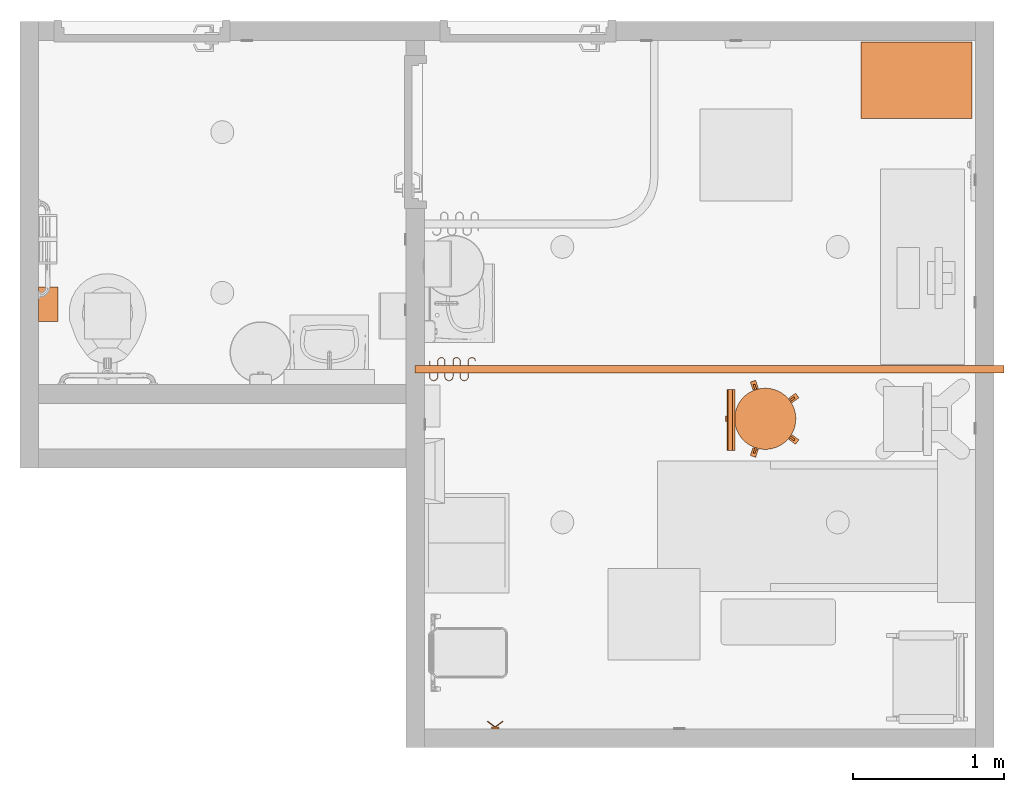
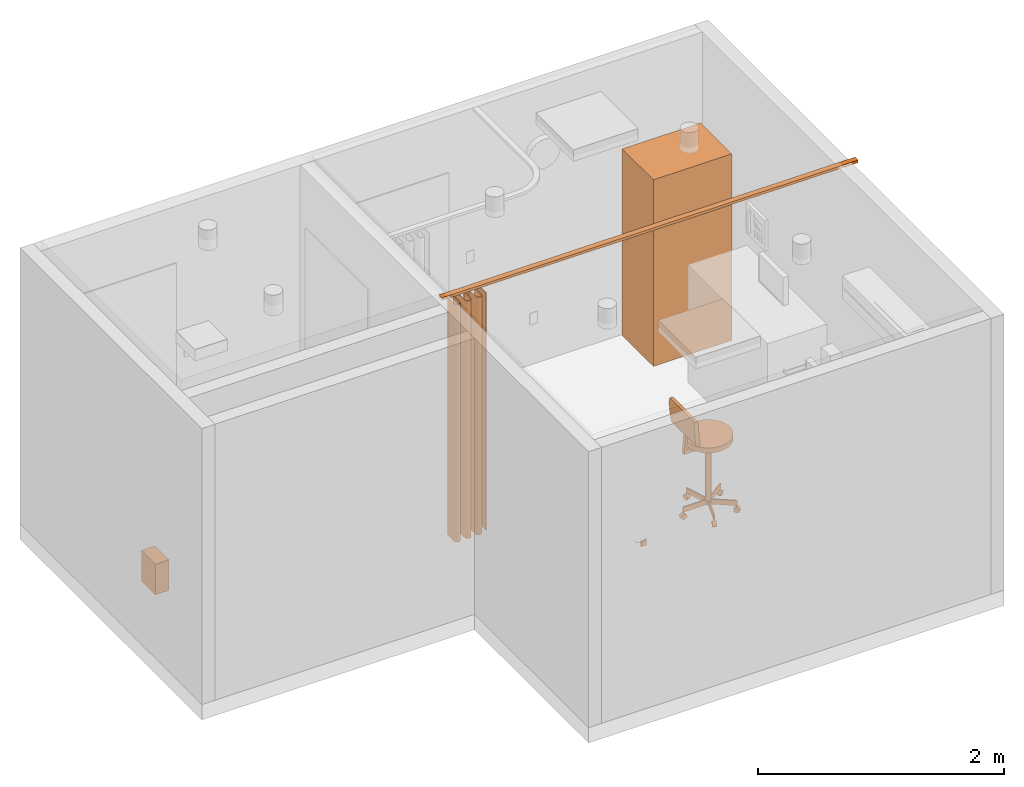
# One storey, part 7 of 14: 5 proxies.
"""IFC2X3 building model written with IfcOpenShell, lengths in feet."""

from ifc_helpers import new_model, entity, si_unit, converted_unit, derived_unit, direction, frame, frame_2d, origin, origin_2d_with_axis, place, context, subcontext, project, spatial, polyline, circle_curve, parameter, trimmed, segment, composite_curve, rectangle, circle, outline, extrude, source, transform, mapped, type_object, type_shapes, element, save


model = new_model("IFC2X3")

# Units and contexts
model_context = context("Model", 3, precision=0.0001, world=origin(), true_north=direction((6.12303176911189e-17, 1.0)))
body_context = subcontext(model_context, "Body", "Model", "MODEL_VIEW")
ifc_project = project(units=[converted_unit("LENGTHUNIT", "FOOT", entity("IfcRatioMeasure", 0.3048), si_unit("LENGTHUNIT", "METRE"), dimensions=[1, 0, 0, 0, 0, 0, 0]), converted_unit("AREAUNIT", "SQUARE FOOT", entity("IfcRatioMeasure", 0.09290304), si_unit("AREAUNIT", "SQUARE_METRE"), dimensions=[2, 0, 0, 0, 0, 0, 0]), converted_unit("VOLUMEUNIT", "CUBIC FOOT", entity("IfcRatioMeasure", 0.028316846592), si_unit("VOLUMEUNIT", "CUBIC_METRE"), dimensions=[3, 0, 0, 0, 0, 0, 0]), converted_unit("PLANEANGLEUNIT", "DEGREE", entity("IfcRatioMeasure", 0.0174532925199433), si_unit("PLANEANGLEUNIT", "RADIAN"), dimensions=[0, 0, 0, 0, 0, 0, 0]), si_unit("MASSUNIT", "GRAM", prefix="KILO"), derived_unit("MASSDENSITYUNIT", [(si_unit("MASSUNIT", "GRAM", prefix="KILO"), 1), (si_unit("LENGTHUNIT", "METRE"), -3)]), si_unit("TIMEUNIT", "SECOND"), si_unit("FREQUENCYUNIT", "HERTZ"), si_unit("THERMODYNAMICTEMPERATUREUNIT", "DEGREE_CELSIUS"), derived_unit("THERMALTRANSMITTANCEUNIT", [(si_unit("MASSUNIT", "GRAM", prefix="KILO"), 1), (si_unit("THERMODYNAMICTEMPERATUREUNIT", "KELVIN"), -1), (si_unit("TIMEUNIT", "SECOND"), -3)]), derived_unit("VOLUMETRICFLOWRATEUNIT", [(si_unit("LENGTHUNIT", "METRE"), 3), (si_unit("TIMEUNIT", "SECOND"), -1)]), si_unit("ELECTRICCURRENTUNIT", "AMPERE"), si_unit("ELECTRICVOLTAGEUNIT", "VOLT"), si_unit("POWERUNIT", "WATT"), si_unit("FORCEUNIT", "NEWTON"), si_unit("ILLUMINANCEUNIT", "LUX"), si_unit("LUMINOUSFLUXUNIT", "LUMEN"), si_unit("LUMINOUSINTENSITYUNIT", "CANDELA"), derived_unit("USERDEFINED", [(si_unit("MASSUNIT", "GRAM", prefix="KILO"), -1), (si_unit("LENGTHUNIT", "METRE"), -2), (si_unit("TIMEUNIT", "SECOND"), 3), (si_unit("LUMINOUSFLUXUNIT", "LUMEN"), 1)]), derived_unit("LINEARVELOCITYUNIT", [(si_unit("LENGTHUNIT", "METRE"), 1), (si_unit("TIMEUNIT", "SECOND"), -1)]), si_unit("PRESSUREUNIT", "PASCAL"), derived_unit("USERDEFINED", [(si_unit("LENGTHUNIT", "METRE"), -2), (si_unit("MASSUNIT", "GRAM", prefix="KILO"), 1), (si_unit("TIMEUNIT", "SECOND"), -2)])], contexts=[model_context])

# Site, building, storey, space
site_placement = place(None, origin())
site = spatial("IfcSite", under=ifc_project, at=site_placement, Name="Default", CompositionType="ELEMENT")
building_placement = place(site_placement, origin())
building = spatial("IfcBuilding", under=site, at=building_placement, Name="OUTPATIENT / PACT CLINIC (Ch. 265)", CompositionType="ELEMENT")
storey_placement = place(building_placement, origin())
storey = spatial("IfcBuildingStorey", under=building, at=storey_placement, Name="DATUM", CompositionType="ELEMENT", Elevation=0.0)
space_1_placement = place(storey_placement, origin())
space_1 = spatial("IfcSpace", under=storey, at=space_1_placement, Name="XDUS1", CompositionType="ELEMENT", InteriorOrExteriorSpace="INTERNAL")

# Proxies
building_element_proxy_type_1 = type_object("IfcBuildingElementProxyType", Name="A5145 - Hook, Garment, Double", PredefinedType="NOTDEFINED")
shared_shape_1 = source(origin(), body_context, "Body", "SweptSolid", [
    extrude(circle(Radius=0.0105952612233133, at=frame_2d((-1.64551454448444e-31, -4.16333634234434e-17), x_axis=(1.0, 0.0))), frame((-0.169086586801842, -0.168481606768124, 0.0833333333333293), z_axis=(0.799999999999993, 0.60000000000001, 0.0), x_axis=(0.60000000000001, -0.799999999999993, 0.0)), (0.0, 0.0, 1.0), 0.211358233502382),
    extrude(circle(Radius=0.0105952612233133, at=frame_2d((5.2041704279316e-19, 2.77555756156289e-17), x_axis=(1.0, 0.0))), frame((0.0, -0.0416666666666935, 0.083333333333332), z_axis=(0.799999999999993, -0.60000000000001, 0.0), x_axis=(-0.60000000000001, -0.799999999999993, 0.0)), (0.0, 0.0, 1.0), 0.211358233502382),
    extrude(rectangle(XDim=0.0416666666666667, YDim=0.166666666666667, at=origin_2d_with_axis()), frame((0.0, -0.0208333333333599, 0.0), z_axis=(0.0, 0.0, 1.0), x_axis=(0.0, 1.0, 0.0)), (0.0, 0.0, 1.0), 0.166666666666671),
])
type_shapes(building_element_proxy_type_1, [shared_shape_1])
proxy_1_placement = place(space_1_placement, frame((334.174151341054, -858.093724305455, 5.0), z_axis=(0.0, 0.0, 1.0), x_axis=(-1.0, 0.0, 0.0)))
element("IfcBuildingElementProxy", 1, at=proxy_1_placement, inside=space_1, type_object=building_element_proxy_type_1, Name="A5145 - Hook, Garment, Double:A5145 - Hook, Garment, Double", ObjectType="A5145 - Hook, Garment, Double", context=body_context, shape_type="MappedRepresentation", body=[
    mapped(shared_shape_1, transform((0.0, 0.0, 0.0), scale=1.0)),
])
building_element_proxy_type_2 = type_object("IfcBuildingElementProxyType", Name="E0930 - Locker, Supply, 6 Drawers, Mobile, 29W x 20D (2)", PredefinedType="NOTDEFINED")
shared_shape_2 = source(origin(), body_context, "Body", "SweptSolid", [
    extrude(rectangle(XDim=1.66666666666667, YDim=2.08333333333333, at=origin_2d_with_axis()), frame((0.0, 0.0, 6.0), z_axis=(0.0, 0.0, 1.0), x_axis=(0.0, 1.0, 0.0)), (0.0, 0.0, 1.0), 0.0833333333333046),
    extrude(circle(Radius=0.0694444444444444, at=frame_2d((1.97215226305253e-31, -1.11022302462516e-16), x_axis=(1.0, 0.0))), frame((-0.902777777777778, -0.677083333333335, 0.176654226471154), z_axis=(0.0, 0.0, 1.0), x_axis=(0.0, 1.0, 0.0)), (0.0, 0.0, 1.0), 0.240012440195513),
    extrude(circle(Radius=0.138888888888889, at=frame_2d((0.0, -2.22044604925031e-16), x_axis=(1.0, 0.0))), frame((-0.833333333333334, -0.758680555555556, 0.208333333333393), z_axis=(0.0, 1.0, 0.0), x_axis=(-1.0, 0.0, 0.0)), (0.0, 0.0, 1.0), 0.15625),
    extrude(circle(Radius=0.208333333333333, at=frame_2d((0.0, -3.33066907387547e-16), x_axis=(1.0, 0.0))), frame((-0.833333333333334, -0.836805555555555, 0.208333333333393), z_axis=(0.0, 1.0, 0.0), x_axis=(-1.0, 0.0, 0.0)), (0.0, 0.0, 1.0), 0.0781249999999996),
    extrude(circle(Radius=0.208333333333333, at=frame_2d((0.0, -3.33066907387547e-16), x_axis=(1.0, 0.0))), frame((-0.833333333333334, -0.602430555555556, 0.208333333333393), z_axis=(0.0, 1.0, 0.0), x_axis=(-1.0, 0.0, 0.0)), (0.0, 0.0, 1.0), 0.0781250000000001),
    extrude(circle(Radius=0.0694444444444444, at=frame_2d((1.97215226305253e-31, 1.11022302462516e-16), x_axis=(1.0, 0.0))), frame((0.902777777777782, -0.677083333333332, 0.176654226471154), z_axis=(0.0, 0.0, 1.0), x_axis=(0.0, 1.0, 0.0)), (0.0, 0.0, 1.0), 0.240012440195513),
    extrude(circle(Radius=0.138888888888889, at=frame_2d((0.0, -2.22044604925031e-16), x_axis=(1.0, 0.0))), frame((0.833333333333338, -0.760416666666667, 0.208333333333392), z_axis=(0.0, 1.0, 0.0), x_axis=(1.0, 0.0, 0.0)), (0.0, 0.0, 1.0), 0.15625),
    extrude(circle(Radius=0.208333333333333, at=frame_2d((0.0, -3.33066907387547e-16), x_axis=(1.0, 0.0))), frame((0.833333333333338, -0.838541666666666, 0.208333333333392), z_axis=(0.0, 1.0, 0.0), x_axis=(1.0, 0.0, 0.0)), (0.0, 0.0, 1.0), 0.0781249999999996),
    extrude(circle(Radius=0.208333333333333, at=frame_2d((1.11022302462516e-16, -3.33066907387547e-16), x_axis=(1.0, 0.0))), frame((0.833333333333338, -0.604166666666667, 0.208333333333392), z_axis=(0.0, 1.0, 0.0), x_axis=(1.0, 0.0, 0.0)), (0.0, 0.0, 1.0), 0.0781250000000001),
    extrude(circle(Radius=0.0694444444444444, at=frame_2d((1.97215226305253e-31, 1.11022302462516e-16), x_axis=(1.0, 0.0))), frame((-0.902777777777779, 0.677083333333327, 0.176654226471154), z_axis=(0.0, 0.0, 1.0), x_axis=(0.0, -1.0, 0.0)), (0.0, 0.0, 1.0), 0.240012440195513),
    extrude(circle(Radius=0.138888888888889, at=frame_2d((0.0, -6.38378239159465e-16), x_axis=(1.0, 0.0))), frame((-0.833333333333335, 0.598958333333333, 0.208333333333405), z_axis=(0.0, 1.0, 0.0), x_axis=(-1.0, 0.0, 0.0)), (0.0, 0.0, 1.0), 0.15625),
    extrude(circle(Radius=0.208333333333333, at=frame_2d((0.0, -9.43689570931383e-16), x_axis=(1.0, 0.0))), frame((-0.833333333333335, 0.755208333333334, 0.208333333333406), z_axis=(0.0, 1.0, 0.0), x_axis=(-1.0, 0.0, 0.0)), (0.0, 0.0, 1.0), 0.0781249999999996),
    extrude(circle(Radius=0.208333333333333, at=frame_2d((1.11022302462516e-16, -9.43689570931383e-16), x_axis=(1.0, 0.0))), frame((-0.833333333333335, 0.520833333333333, 0.208333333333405), z_axis=(0.0, 1.0, 0.0), x_axis=(-1.0, 0.0, 0.0)), (0.0, 0.0, 1.0), 0.0781250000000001),
    extrude(circle(Radius=0.0694444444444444, at=frame_2d((0.00686468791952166, 0.000866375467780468), x_axis=(1.0, 0.0))), frame((0.901911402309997, 0.683948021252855, 0.176654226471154), z_axis=(0.0, 0.0, 1.0), x_axis=(0.0, -1.0, 0.0)), (0.0, 0.0, 1.0), 0.240012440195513),
    extrude(circle(Radius=0.208333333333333, at=frame_2d((0.0, -9.43689570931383e-16), x_axis=(1.0, 0.0))), frame((0.833333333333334, 0.755208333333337, 0.208333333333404), z_axis=(0.0, 1.0, 0.0), x_axis=(1.0, 0.0, 0.0)), (0.0, 0.0, 1.0), 0.0781249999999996),
    extrude(circle(Radius=0.208333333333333, at=frame_2d((1.97215226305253e-31, -9.43689570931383e-16), x_axis=(1.0, 0.0))), frame((0.833333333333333, 0.520833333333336, 0.208333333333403), z_axis=(0.0, 1.0, 0.0), x_axis=(1.0, 0.0, 0.0)), (0.0, 0.0, 1.0), 0.0781250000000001),
    extrude(outline(polyline([(-4.06249999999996, -1.04166666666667), (1.52083333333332, -1.04166666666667), (1.52083333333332, -0.958333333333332), (1.02083333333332, -0.958333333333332), (1.02083333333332, 0.958333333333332), (1.52083333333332, 0.958333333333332), (1.52083333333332, 1.04166666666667), (-4.06249999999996, 1.04166666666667), (-4.06249999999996, -1.04166666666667)]), holes=[polyline([(0.937499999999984, -0.958333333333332), (0.437499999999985, -0.958333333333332), (0.437499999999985, 0.958333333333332), (0.937499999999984, 0.958333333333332), (0.937499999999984, -0.958333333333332)]), polyline([(0.354166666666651, -0.958333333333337), (-0.145833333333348, -0.958333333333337), (-0.145833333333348, 0.958333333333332), (0.354166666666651, 0.958333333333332), (0.354166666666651, -0.958333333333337)])]), frame((0.0, -0.833333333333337, 4.47916666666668), z_axis=(0.0, 1.0, 0.0), x_axis=(0.0, 0.0, 1.0)), (0.0, 0.0, 1.0), 1.66666666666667),
    extrude(outline(polyline([(-0.104166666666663, -0.833333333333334), (0.062499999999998, -0.833333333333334), (0.062499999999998, -0.749999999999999), (-0.0208333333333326, -0.749999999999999), (-0.0208333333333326, 0.75), (0.0624999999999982, 0.75), (0.0624999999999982, 0.833333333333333), (-0.104166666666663, 0.833333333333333), (-0.104166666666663, -0.833333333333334)])), frame((1.10416666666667, 0.0, 3.0), z_axis=(0.0, 0.0, 1.0), x_axis=(-1.0, 0.0, 0.0)), (0.0, 0.0, 1.0), 0.083333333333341),
    extrude(outline(polyline([(-0.833333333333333, -0.104166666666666), (0.833333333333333, -0.104166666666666), (0.833333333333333, 0.0625000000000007), (0.75, 0.0625000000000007), (0.75, -0.0208333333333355), (-0.749999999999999, -0.0208333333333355), (-0.749999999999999, 0.0625000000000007), (-0.833333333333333, 0.0625000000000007), (-0.833333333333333, -0.104166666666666)])), frame((-1.10416666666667, 0.0, 3.0), z_axis=(0.0, 0.0, 1.0), x_axis=(0.0, -1.0, 0.0)), (0.0, 0.0, 1.0), 0.0833333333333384),
    extrude(rectangle(XDim=1.66666666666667, YDim=2.41666666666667, at=frame_2d((8.88178419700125e-16, 0.241666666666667), x_axis=(1.0, 0.0))), frame((-0.241666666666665, 0.0, 0.0), z_axis=(0.0, 0.0, 1.0), x_axis=(0.0, -1.0, 0.0)), (0.0, 0.0, 1.0), 6.0833333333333),
])
type_shapes(building_element_proxy_type_2, [shared_shape_2])
proxy_2_placement = place(space_1_placement, frame((343.351234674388, -843.963515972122, 0.0), z_axis=(0.0, 0.0, 1.0), x_axis=(-1.0, 0.0, 0.0)))
element("IfcBuildingElementProxy", 2, at=proxy_2_placement, inside=space_1, type_object=building_element_proxy_type_2, Name="E0930 - Locker, Supply, 6 Drawers, Mobile, 29W x 20D (2):E0930 - Locker, Supply, 6 Drawers, Mobile, 29W x 20D (2)", ObjectType="E0930 - Locker, Supply, 6 Drawers, Mobile, 29W x 20D (2)", context=body_context, shape_type="MappedRepresentation", body=[
    mapped(shared_shape_2, transform((0.0, 0.0, 0.0), scale=1.0)),
])
building_element_proxy_type_3 = type_object("IfcBuildingElementProxyType", Name="M8940 - Stool, Anesthesia, With Back", PredefinedType="NOTDEFINED")
shared_shape_3 = source(origin(), body_context, "Body", "SweptSolid", [
    extrude(outline(polyline([(0.143987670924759, 0.000865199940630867), (0.333394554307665, 0.000865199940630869), (0.333394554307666, 0.0559892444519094), (0.142005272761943, 0.0559892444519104), (-0.179168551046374, 0.00196917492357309), (-0.390620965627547, -0.0185684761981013), (-0.382992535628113, -0.0971095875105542), (0.143987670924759, 0.000865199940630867)])), frame((-0.0625000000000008, 0.624659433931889, 2.5155864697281), z_axis=(1.0, 0.0, 0.0), x_axis=(0.0, 0.0966716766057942, 0.995316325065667)), (0.0, 0.0, 1.0), 0.132780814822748),
    extrude(outline(polyline([(-0.104007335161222, -0.374369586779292), (-0.0277118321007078, -0.374369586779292), (-0.0197350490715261, -0.338348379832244), (0.00592434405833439, -0.182113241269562), (0.0162560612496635, -0.135457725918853), (0.045782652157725, -0.00212284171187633), (0.0856087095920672, 0.177721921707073), (0.112798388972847, 0.276572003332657), (0.120257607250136, 0.307674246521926), (0.129202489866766, 0.415216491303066), (0.0455811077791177, 0.433734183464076), (0.0167028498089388, 0.395704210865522), (-0.0364083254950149, 0.222671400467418), (-0.125070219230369, -0.177704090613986), (-0.136828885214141, -0.275386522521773), (-0.128352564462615, -0.369422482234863), (-0.104007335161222, -0.374369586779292)])), frame((-0.687500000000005, 0.644271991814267, 3.18727180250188), z_axis=(1.0, 0.0, 0.0), x_axis=(0.0, -0.991475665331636, -0.130291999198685)), (0.0, 0.0, 1.0), 1.33333333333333),
    extrude(outline(composite_curve([segment(polyline([(-0.0612743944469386, -0.320690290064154), (0.0612743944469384, -0.320690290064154)]), True, "CONTINUOUS"), segment(polyline([(0.0612743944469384, -0.320690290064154), (0.0612743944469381, 0.320690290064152)]), True, "CONTINUOUS"), segment(trimmed(circle_curve(frame_2d((0.0, 0.373318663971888), x_axis=(-1.0, 0.0)), 0.0807731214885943), [parameter(40.6591720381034)], [parameter(139.340827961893)], True, "PARAMETER"), False, "CONTINUOUS"), segment(polyline([(-0.0612743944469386, 0.320690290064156), (-0.0612743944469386, -0.320690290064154)]), True, "CONTINUOUS")], self_intersect=False)), frame((0.00589508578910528, 0.284688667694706, 2.125), z_axis=(0.0, 0.0, 1.0), x_axis=(-1.0, 0.0, 0.0)), (0.0, 0.0, 1.0), 0.125),
    extrude(circle(Radius=0.666666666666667, at=frame_2d((6.93889390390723e-18, -1.08246744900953e-15), x_axis=(1.0, 0.0))), frame((0.0071206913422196, -0.0913525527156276, 2.33333333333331)), (0.0, 0.0, 1.0), 0.166666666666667),
    extrude(circle(Radius=0.084518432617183, at=frame_2d((-4.28847227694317e-18, -1.11022302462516e-16), x_axis=(1.0, 0.0))), frame((0.756321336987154, 0.0973138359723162, 0.0845184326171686), z_axis=(-0.30901699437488, 0.951056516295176, 0.0), x_axis=(0.951056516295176, 0.30901699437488, 0.0)), (0.0, 0.0, 1.0), 0.104166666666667),
    extrude(outline(composite_curve([segment(trimmed(circle_curve(frame_2d((0.0, 0.0), x_axis=(-1.0, 0.0)), 0.0925649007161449), [parameter(360.0)], [parameter(180.0)], True, "PARAMETER"), True, "CONTINUOUS"), segment(polyline([(0.092564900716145, 0.0), (-0.0925649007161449, 0.0)]), True, "CONTINUOUS")], self_intersect=False)), frame((0.759540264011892, 0.0874069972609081, 0.0845184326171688), z_axis=(0.30901699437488, -0.951056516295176, 0.0), x_axis=(-0.951056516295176, -0.30901699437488, 0.0)), (0.0, 0.0, -1.0), 0.125),
    extrude(circle(Radius=0.0115130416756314, at=origin_2d_with_axis()), frame((0.740227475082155, 0.146845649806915, 0.177083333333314), z_axis=(0.0, 0.0, 1.0), x_axis=(0.30901699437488, -0.951056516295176, 0.0)), (0.0, 0.0, 1.0), 0.0442708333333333),
    extrude(rectangle(XDim=0.0416641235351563, YDim=0.705912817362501, at=frame_2d((-1.38777878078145e-17, 0.0), x_axis=(1.0, 0.0))), frame((0.419691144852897, 0.042697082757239, 0.221354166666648), z_axis=(0.0, 0.0, 1.0), x_axis=(-0.309016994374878, 0.951056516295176, 0.0)), (0.0, 0.0, 1.0), 0.166666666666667),
    extrude(circle(Radius=0.084518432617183, at=frame_2d((0.0, -3.7470027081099e-16), x_axis=(1.0, 0.0))), frame((0.418068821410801, -0.745583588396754, 0.0845184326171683), z_axis=(0.809016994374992, 0.587785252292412, 0.0), x_axis=(0.587785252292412, -0.809016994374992, 0.0)), (0.0, 0.0, 1.0), 0.104166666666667),
    extrude(outline(composite_curve([segment(trimmed(circle_curve(frame_2d((0.0, 0.0), x_axis=(-1.0, 0.0)), 0.0925649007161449), [parameter(360.0)], [parameter(180.0)], True, "PARAMETER"), True, "CONTINUOUS"), segment(polyline([(0.092564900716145, 0.0), (-0.0925649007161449, 0.0)]), True, "CONTINUOUS")], self_intersect=False)), frame((0.409641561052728, -0.751706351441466, 0.0845184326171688), z_axis=(-0.809016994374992, -0.587785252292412, 0.0), x_axis=(-0.587785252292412, 0.809016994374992, 0.0)), (0.0, 0.0, -1.0), 0.125),
    extrude(circle(Radius=0.0115130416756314, at=origin_2d_with_axis()), frame((0.460203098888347, -0.714971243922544, 0.177083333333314), z_axis=(0.0, 0.0, 1.0), x_axis=(-0.809016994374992, -0.587785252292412, 0.0)), (0.0, 0.0, 1.0), 0.0442708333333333),
    extrude(rectangle(XDim=0.0416641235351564, YDim=0.705912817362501, at=frame_2d((2.77555756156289e-17, -2.77555756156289e-17), x_axis=(1.0, 0.0))), frame((0.26210075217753, -0.44230675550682, 0.221354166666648), z_axis=(0.0, 0.0, 1.0), x_axis=(0.809016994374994, 0.58778525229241, 0.0)), (0.0, 0.0, 1.0), 0.166666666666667),
    extrude(circle(Radius=0.084518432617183, at=frame_2d((3.26286360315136e-17, -9.71445146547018e-17), x_axis=(1.0, 0.0))), frame((-0.488100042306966, -0.684355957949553, 0.0845184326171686), z_axis=(0.809016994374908, -0.587785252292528, 0.0), x_axis=(-0.587785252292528, -0.809016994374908, 0.0)), (0.0, 0.0, 1.0), 0.104166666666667),
    extrude(outline(composite_curve([segment(trimmed(circle_curve(origin_2d_with_axis(), 0.0925649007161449), [parameter(360.0)], [parameter(180.0)], True, "PARAMETER"), True, "CONTINUOUS"), segment(polyline([(-0.0925649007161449, 0.0), (0.0925649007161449, 0.0)]), True, "CONTINUOUS")], self_intersect=False)), frame((-0.395400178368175, -0.751706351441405, 0.08451843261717), z_axis=(-0.809016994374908, 0.587785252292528, 0.0), x_axis=(-0.587785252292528, -0.809016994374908, 0.0)), (0.0, 0.0, 1.0), 0.125),
    extrude(circle(Radius=0.0115130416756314, at=origin_2d_with_axis()), frame((-0.445965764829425, -0.71496830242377, 0.177083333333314), z_axis=(0.0, 0.0, 1.0), x_axis=(-0.809016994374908, 0.587785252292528, 0.0)), (0.0, 0.0, 1.0), 0.0442708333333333),
    extrude(rectangle(XDim=0.0416641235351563, YDim=0.705912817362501, at=origin_2d_with_axis()), frame((-0.247863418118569, -0.442303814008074, 0.221354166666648), z_axis=(0.0, 0.0, 1.0), x_axis=(0.809016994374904, -0.587785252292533, 0.0)), (0.0, 0.0, 1.0), 0.166666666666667),
    extrude(circle(Radius=0.084518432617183, at=frame_2d((0.0, -1.38777878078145e-16), x_axis=(1.0, 0.0))), frame((-0.742079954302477, 0.0973138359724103, 0.0845184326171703), z_axis=(0.309016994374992, 0.951056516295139, 0.0), x_axis=(-0.951056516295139, 0.309016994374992, 0.0)), (0.0, 0.0, 1.0), 0.104166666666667),
    extrude(outline(composite_curve([segment(trimmed(circle_curve(origin_2d_with_axis(), 0.0925649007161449), [parameter(360.0)], [parameter(180.0)], True, "PARAMETER"), True, "CONTINUOUS"), segment(polyline([(-0.0925649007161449, 0.0), (0.0925649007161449, 0.0)]), True, "CONTINUOUS")], self_intersect=False)), frame((-0.745298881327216, 0.0874069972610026, 0.0845184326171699), z_axis=(0.309016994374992, 0.951056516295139, 0.0), x_axis=(-0.951056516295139, 0.309016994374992, 0.0)), (0.0, 0.0, 1.0), 0.125),
    extrude(circle(Radius=0.0115130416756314, at=frame_2d((-3.43077782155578e-17, 1.05588484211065e-16), x_axis=(1.0, 0.0))), frame((-0.725984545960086, 0.146850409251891, 0.177083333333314), z_axis=(0.0, 0.0, 1.0), x_axis=(0.309016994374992, 0.951056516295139, 0.0)), (0.0, 0.0, 1.0), 0.0442708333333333),
    extrude(rectangle(XDim=0.0416641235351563, YDim=0.705912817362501, at=frame_2d((-6.93889390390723e-18, 5.55111512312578e-17), x_axis=(1.0, 0.0))), frame((-0.40544821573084, 0.042701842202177, 0.221354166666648), z_axis=(0.0, 0.0, 1.0), x_axis=(-0.309016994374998, -0.951056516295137, 0.0)), (0.0, 0.0, 1.0), 0.166666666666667),
    extrude(circle(Radius=0.084518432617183, at=frame_2d((0.0, 1.38777878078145e-16), x_axis=(1.0, 0.0))), frame((-0.0449626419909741, 0.679480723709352, 0.08451843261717), z_axis=(1.0, 0.0, 0.0), x_axis=(0.0, 1.0, 0.0)), (0.0, 0.0, 1.0), 0.104166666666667),
    extrude(outline(composite_curve([segment(trimmed(circle_curve(origin_2d_with_axis(), 0.0925649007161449), [parameter(360.0)], [parameter(180.0)], True, "PARAMETER"), True, "CONTINUOUS"), segment(polyline([(-0.0925649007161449, 0.0), (0.0925649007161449, 0.0)]), True, "CONTINUOUS")], self_intersect=False)), frame((-0.0553793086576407, 0.679480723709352, 0.0845184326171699), z_axis=(1.0, 0.0, 0.0), x_axis=(0.0, 1.0, 0.0)), (0.0, 0.0, 1.0), 0.125),
    extrude(circle(Radius=0.0115130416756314, at=frame_2d((-8.6736173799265e-19, 1.11022302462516e-16), x_axis=(1.0, 0.0))), frame((0.00712319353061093, 0.67948072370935, 0.177083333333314)), (0.0, 0.0, 1.0), 0.0442708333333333),
    extrude(rectangle(XDim=0.0416641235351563, YDim=0.705912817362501, at=frame_2d((0.0, -5.55111512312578e-17), x_axis=(1.0, 0.0))), frame((0.00712319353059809, 0.34244888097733, 0.221354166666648), z_axis=(0.0, 0.0, 1.0), x_axis=(-1.0, 0.0, 0.0)), (0.0, 0.0, 1.0), 0.166666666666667),
    extrude(circle(Radius=0.0834863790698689, at=frame_2d((-6.93889390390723e-18, -1.38777878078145e-16), x_axis=(1.0, 0.0))), frame((0.00712069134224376, -0.0913525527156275, 0.221354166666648)), (0.0, 0.0, 1.0), 2.11197916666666),
])
type_shapes(building_element_proxy_type_3, [shared_shape_3])
proxy_3_placement = place(space_1_placement, frame((339.965818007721, -851.343724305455, 0.0), z_axis=(0.0, 0.0, 1.0), x_axis=(0.0, 1.0, 0.0)))
element("IfcBuildingElementProxy", 3, at=proxy_3_placement, inside=space_1, type_object=building_element_proxy_type_3, Name="M8940 - Stool, Anesthesia, With Back:M8940 - Stool, Anesthesia, With Back", ObjectType="M8940 - Stool, Anesthesia, With Back", context=body_context, shape_type="MappedRepresentation", body=[
    mapped(shared_shape_3, transform((0.0, 0.0, 0.0), scale=1.0)),
])

# Space
space_2_placement = place(storey_placement, origin())
space_2 = spatial("IfcSpace", under=storey, at=space_2_placement, Name="TNPG1", CompositionType="ELEMENT", InteriorOrExteriorSpace="INTERNAL")

# Proxies
building_element_proxy_type_4 = type_object("IfcBuildingElementProxyType", Name="A5090 - Dispenser, Sanitary Napkin, SS, Surface Mounted", PredefinedType="NOTDEFINED")
shared_shape_4 = source(origin(), body_context, "Body", "SweptSolid", [
    extrude(rectangle(XDim=0.75, YDim=0.0833333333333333, at=frame_2d((0.0, -6.93889390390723e-18), x_axis=(1.0, 0.0))), frame((0.0, 0.0416666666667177, 0.87500000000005), z_axis=(0.0, 0.0, 1.0), x_axis=(-1.0, 0.0, 0.0)), (0.0, 0.0, 1.0), 0.125000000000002),
    extrude(outline(polyline([(-0.0828981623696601, -0.378205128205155), (0.0421018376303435, -0.378205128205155), (0.042101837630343, -0.0865384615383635), (0.0166807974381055, -0.0793339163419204), (-0.0043447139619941, -0.0589660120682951), (-0.017339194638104, -0.0289565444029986), (-0.0200557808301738, 0.0055055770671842), (-0.0120247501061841, 0.038461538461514), (0.00536525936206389, 0.0642129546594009), (0.0291073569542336, 0.0783071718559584), (0.0421018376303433, 0.0801282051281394), (0.0421018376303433, 0.371794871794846), (-0.0828981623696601, 0.371794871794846), (-0.0828981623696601, -0.378205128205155)])), frame((-0.00320512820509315, 0.0833333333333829, 0.917101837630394), z_axis=(0.0, 1.0, 0.0), x_axis=(0.0, 0.0, -1.0)), (0.0, 0.0, 1.0), 0.333333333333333),
    extrude(rectangle(XDim=0.749999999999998, YDim=0.416666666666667, at=origin_2d_with_axis()), frame((0.0, 0.208333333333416, 0.0), z_axis=(0.0, 0.0, 1.0), x_axis=(-1.0, 0.0, 0.0)), (0.0, 0.0, 1.0), 0.875000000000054),
])
type_shapes(building_element_proxy_type_4, [shared_shape_4])
proxy_4_placement = place(space_2_placement, frame((324.231443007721, -848.843724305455, 1.5), z_axis=(0.0, 0.0, 1.0), x_axis=(0.0, -1.0, 0.0)))
element("IfcBuildingElementProxy", 4, at=proxy_4_placement, inside=space_2, type_object=building_element_proxy_type_4, Name="A5090 - Dispenser, Sanitary Napkin, SS, Surface Mounted:A5090 - Dispenser, Sanitary Napkin, SS, Surface Mounted", ObjectType="A5090 - Dispenser, Sanitary Napkin, SS, Surface Mounted", context=body_context, shape_type="MappedRepresentation", body=[
    mapped(shared_shape_4, transform((0.0, 0.0, 0.0), scale=1.0)),
])
building_element_proxy_type_5 = type_object("IfcBuildingElementProxyType", Name="A5180 - Track, Cubicle, Surface Mounted, With Curtain, Straight_12-9", PredefinedType="NOTDEFINED")
shared_shape_5 = source(origin(), body_context, "Body", "SweptSolid", [
    extrude(outline(composite_curve([segment(trimmed(circle_curve(frame_2d((-0.417410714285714, -0.166666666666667), x_axis=(1.0, 0.0)), 0.0833333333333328), [parameter(180.0)], [parameter(4.57999874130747e-13)], True, "PARAMETER"), True, "CONTINUOUS"), segment(polyline([(-0.334077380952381, -0.166666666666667), (-0.334077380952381, 0.166666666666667)]), True, "CONTINUOUS"), segment(trimmed(circle_curve(frame_2d((-0.250744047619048, 0.166666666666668), x_axis=(1.0, 0.0)), 0.0833333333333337), [parameter(1.01777749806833e-13)], [parameter(180.0)], True, "PARAMETER"), False, "CONTINUOUS"), segment(polyline([(-0.167410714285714, 0.166666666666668), (-0.167410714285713, -0.166666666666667)]), True, "CONTINUOUS"), segment(trimmed(circle_curve(frame_2d((-0.0840773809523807, -0.166666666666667), x_axis=(1.0, 0.0)), 0.0833333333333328), [parameter(180.0)], [parameter(4.57999874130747e-13)], True, "PARAMETER"), True, "CONTINUOUS"), segment(polyline([(-0.000744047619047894, -0.166666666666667), (-0.000744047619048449, 0.166666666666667)]), True, "CONTINUOUS"), segment(trimmed(circle_curve(frame_2d((0.0825892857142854, 0.166666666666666), x_axis=(1.0, 0.0)), 0.0833333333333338), [parameter(360.0)], [parameter(180.0)], True, "PARAMETER"), False, "CONTINUOUS"), segment(polyline([(0.165922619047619, 0.166666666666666), (0.16592261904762, -0.166666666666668)]), True, "CONTINUOUS"), segment(trimmed(circle_curve(frame_2d((0.249255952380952, -0.166666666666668), x_axis=(1.0, 0.0)), 0.0833333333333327), [parameter(180.0)], [parameter(4.57999874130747e-13)], True, "PARAMETER"), True, "CONTINUOUS"), segment(polyline([(0.332589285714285, -0.166666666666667), (0.332589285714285, 0.166666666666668)]), True, "CONTINUOUS"), segment(trimmed(circle_curve(frame_2d((0.415922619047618, 0.166666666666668), x_axis=(1.0, 0.0)), 0.0833333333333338), [parameter(5.08888749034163e-14)], [parameter(180.0)], True, "PARAMETER"), False, "CONTINUOUS"), segment(polyline([(0.499255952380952, 0.166666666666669), (0.499255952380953, -0.166666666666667)]), True, "CONTINUOUS"), segment(polyline([(0.499255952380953, -0.166666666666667), (0.50967261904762, -0.166666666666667)]), True, "CONTINUOUS"), segment(polyline([(0.50967261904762, -0.166666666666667), (0.509672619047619, 0.166666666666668)]), True, "CONTINUOUS"), segment(trimmed(circle_curve(frame_2d((0.415922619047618, 0.166666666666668), x_axis=(1.0, 0.0)), 0.0937500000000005), [parameter(4.07110999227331e-13)], [parameter(180.0)], True, "PARAMETER"), True, "CONTINUOUS"), segment(polyline([(0.322172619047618, 0.166666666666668), (0.322172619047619, -0.166666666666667)]), True, "CONTINUOUS"), segment(trimmed(circle_curve(frame_2d((0.249255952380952, -0.166666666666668), x_axis=(1.0, 0.0)), 0.072916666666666), [parameter(180.0)], [parameter(360.0)], True, "PARAMETER"), False, "CONTINUOUS"), segment(polyline([(0.176339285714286, -0.166666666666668), (0.176339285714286, 0.166666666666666)]), True, "CONTINUOUS"), segment(trimmed(circle_curve(frame_2d((0.0825892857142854, 0.166666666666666), x_axis=(1.0, 0.0)), 0.0937500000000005), [parameter(4.57999874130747e-13)], [parameter(180.0)], True, "PARAMETER"), True, "CONTINUOUS"), segment(polyline([(-0.0111607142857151, 0.166666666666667), (-0.0111607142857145, -0.166666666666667)]), True, "CONTINUOUS"), segment(trimmed(circle_curve(frame_2d((-0.0840773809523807, -0.166666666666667), x_axis=(1.0, 0.0)), 0.0729166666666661), [parameter(180.0)], [parameter(360.0)], True, "PARAMETER"), False, "CONTINUOUS"), segment(polyline([(-0.156994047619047, -0.166666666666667), (-0.156994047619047, 0.166666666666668)]), True, "CONTINUOUS"), segment(trimmed(circle_curve(frame_2d((-0.250744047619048, 0.166666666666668), x_axis=(1.0, 0.0)), 0.0937500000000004), [parameter(5.08888749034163e-13)], [parameter(180.0)], True, "PARAMETER"), True, "CONTINUOUS"), segment(polyline([(-0.344494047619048, 0.166666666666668), (-0.344494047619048, -0.166666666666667)]), True, "CONTINUOUS"), segment(trimmed(circle_curve(frame_2d((-0.417410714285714, -0.166666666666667), x_axis=(1.0, 0.0)), 0.0729166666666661), [parameter(180.0)], [parameter(360.0)], True, "PARAMETER"), False, "CONTINUOUS"), segment(polyline([(-0.49032738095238, -0.166666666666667), (-0.49032738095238, 0.166666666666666)]), True, "CONTINUOUS"), segment(polyline([(-0.49032738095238, 0.166666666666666), (-0.500744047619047, 0.166666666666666)]), True, "CONTINUOUS"), segment(polyline([(-0.500744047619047, 0.166666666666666), (-0.500744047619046, -0.166666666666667)]), True, "CONTINUOUS")], self_intersect=False)), frame((0.506771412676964, -0.0104166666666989, 1.0)), (0.0, 0.0, 1.0), 7.7499999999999),
    extrude(outline(polyline([(-0.0833333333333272, -0.0520833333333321), (0.0833333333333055, -0.0520833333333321), (0.0833333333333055, 0.03125), (0.0416666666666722, 0.03125), (0.0416666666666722, 0.0104166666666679), (0.0625000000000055, 0.0104166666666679), (0.0625000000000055, -0.03125), (-0.0624999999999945, -0.03125), (-0.0624999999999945, 0.0104166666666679), (-0.0416666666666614, 0.0104166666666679), (-0.0416666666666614, 0.03125), (-0.0833333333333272, 0.03125), (-0.0833333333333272, -0.0520833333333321)])), frame((-11.5, 0.0, 8.94791666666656), z_axis=(1.0, 0.0, 0.0), x_axis=(0.0, -1.0, 0.0)), (0.0, 0.0, 1.0), 12.8333333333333),
])
type_shapes(building_element_proxy_type_5, [shared_shape_5])
proxy_5_placement = place(space_1_placement, frame((333.757484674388, -850.260390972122, 0.0), z_axis=(0.0, 0.0, 1.0), x_axis=(-1.0, 0.0, 0.0)))
element("IfcBuildingElementProxy", 5, at=proxy_5_placement, inside=space_1, type_object=building_element_proxy_type_5, Name="Curtain 12':A5180 - Track, Cubicle, Surface Mounted, With Curtain, Straight_12-9", ObjectType="A5180 - Track, Cubicle, Surface Mounted, With Curtain, Straight_12-9", context=body_context, shape_type="MappedRepresentation", body=[
    mapped(shared_shape_5, transform((0.0, 0.0, 0.0), scale=1.0)),
])

save(model, "model.ifc")
